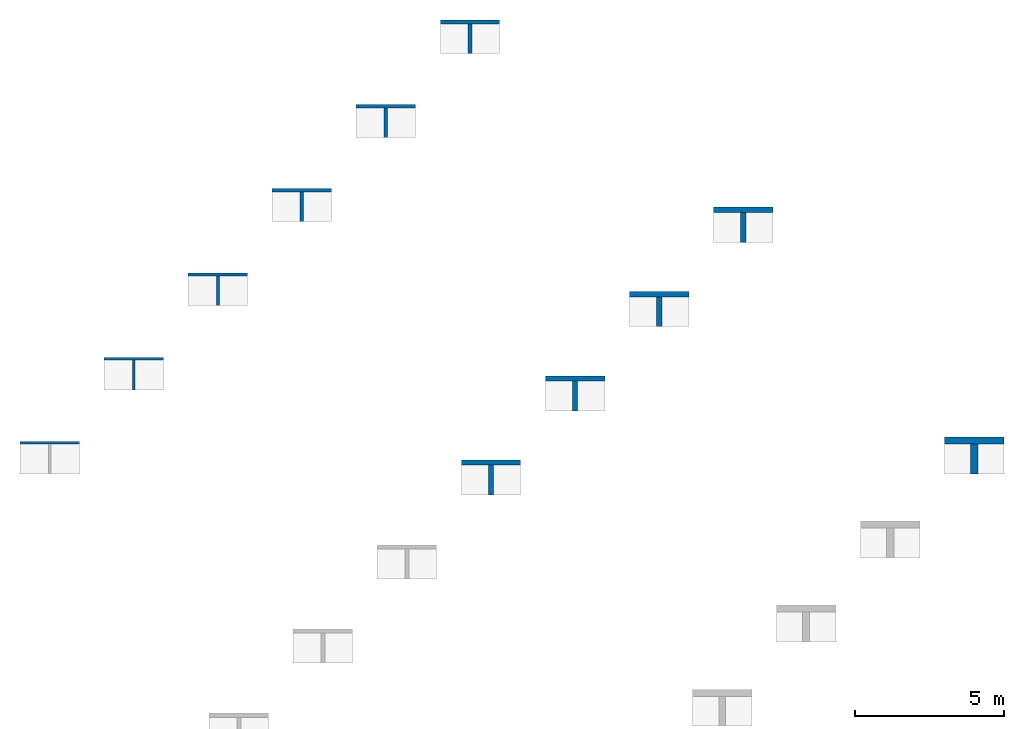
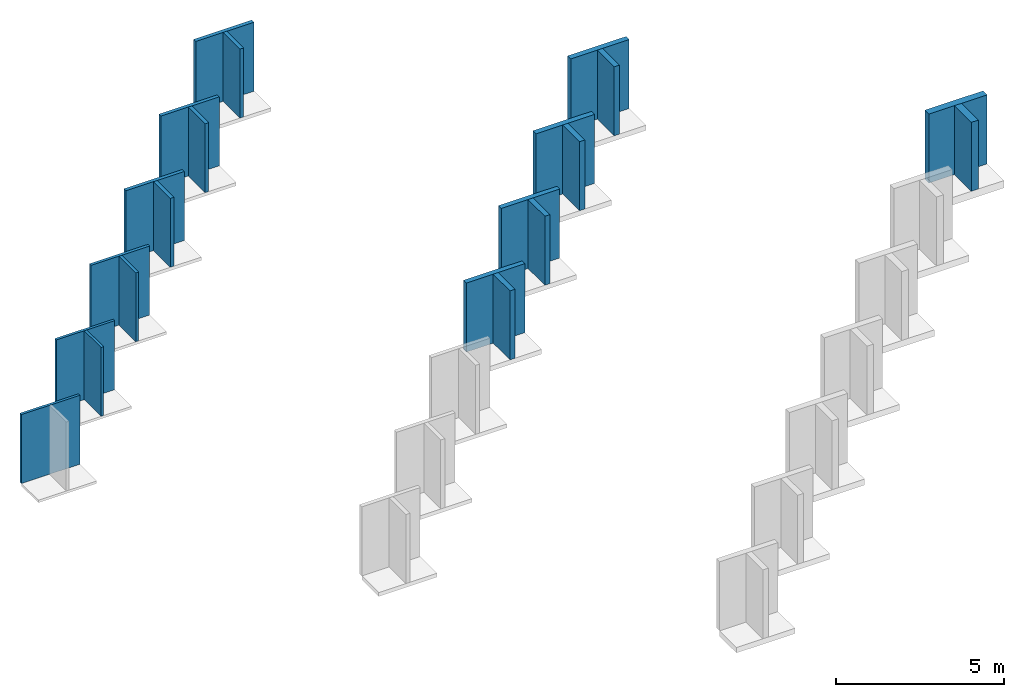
# One storey, part 2 of 2: 21 walls.
"""IFC2X3 building model written with IfcOpenShell, lengths in millimetres."""

from ifc_helpers import new_model, entity, si_unit, converted_unit, derived_unit, direction, frame, frame_2d, origin, place, context, subcontext, project, spatial, rectangle, extrude, material, layer, layer_set, layer_usage, type_object, element, save


model = new_model("IFC2X3")

# Units and contexts
model_context = context("Model", 3, precision=0.01, world=origin(), true_north=direction((6.12303176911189e-17, 1.0)))
context_of_model = context(None, 3, precision=0.01, world=origin(), true_north=direction((6.12303176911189e-17, 1.0)))
body_context = subcontext(model_context, "Body", "Model", "MODEL_VIEW")
ifc_project = project(units=[si_unit("LENGTHUNIT", "METRE", prefix="MILLI"), si_unit("AREAUNIT", "SQUARE_METRE"), si_unit("VOLUMEUNIT", "CUBIC_METRE"), converted_unit("PLANEANGLEUNIT", "DEGREE", entity("IfcRatioMeasure", 0.0174532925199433), si_unit("PLANEANGLEUNIT", "RADIAN"), dimensions=[0, 0, 0, 0, 0, 0, 0]), si_unit("MASSUNIT", "GRAM", prefix="KILO"), derived_unit("MASSDENSITYUNIT", [(si_unit("MASSUNIT", "GRAM", prefix="KILO"), 1), (si_unit("LENGTHUNIT", "METRE"), -3)]), si_unit("TIMEUNIT", "SECOND"), si_unit("FREQUENCYUNIT", "HERTZ"), si_unit("THERMODYNAMICTEMPERATUREUNIT", "DEGREE_CELSIUS"), derived_unit("THERMALTRANSMITTANCEUNIT", [(si_unit("MASSUNIT", "GRAM", prefix="KILO"), 1), (si_unit("THERMODYNAMICTEMPERATUREUNIT", "KELVIN"), -1), (si_unit("TIMEUNIT", "SECOND"), -3)]), derived_unit("VOLUMETRICFLOWRATEUNIT", [(si_unit("LENGTHUNIT", "METRE"), 3), (si_unit("TIMEUNIT", "SECOND"), -1)]), si_unit("ELECTRICCURRENTUNIT", "AMPERE"), si_unit("ELECTRICVOLTAGEUNIT", "VOLT"), si_unit("POWERUNIT", "WATT"), si_unit("FORCEUNIT", "NEWTON", prefix="KILO"), si_unit("ILLUMINANCEUNIT", "LUX"), si_unit("LUMINOUSFLUXUNIT", "LUMEN"), si_unit("LUMINOUSINTENSITYUNIT", "CANDELA"), derived_unit("USERDEFINED", [(si_unit("MASSUNIT", "GRAM", prefix="KILO"), -1), (si_unit("LENGTHUNIT", "METRE"), -2), (si_unit("TIMEUNIT", "SECOND"), 3), (si_unit("LUMINOUSFLUXUNIT", "LUMEN"), 1)]), derived_unit("LINEARVELOCITYUNIT", [(si_unit("LENGTHUNIT", "METRE"), 1), (si_unit("TIMEUNIT", "SECOND"), -1)]), si_unit("PRESSUREUNIT", "PASCAL"), derived_unit("USERDEFINED", [(si_unit("LENGTHUNIT", "METRE"), -2), (si_unit("MASSUNIT", "GRAM", prefix="KILO"), 1), (si_unit("TIMEUNIT", "SECOND"), -2)])], contexts=[model_context, context_of_model])

# Site, building, storey
site_placement = place(None, origin())
site = spatial("IfcSite", under=ifc_project, at=site_placement, Name="Default", CompositionType="ELEMENT")
building_placement = place(site_placement, origin())
building = spatial("IfcBuilding", under=site, at=building_placement, CompositionType="ELEMENT")
storey_placement = place(building_placement, origin())
storey = spatial("IfcBuildingStorey", under=building, at=storey_placement, Name="Begane grond", CompositionType="ELEMENT", Elevation=0.0)

# Walls
ifc_material = material(Name="Knauf Insulation_Ecose® glaswol_naturoll 035")
ifc_layer_1 = layer(ifc_material, 90.0)
ifc_layer_set_1 = layer_set([ifc_layer_1], Name="Basic Wall:NLRS_21_WA_Naturoll 035_90x380x7600mm")
ifc_layer_usage_1 = layer_usage(ifc_layer_set_1, "AXIS2", "NEGATIVE", 45.0)
wall_type_1 = type_object("IfcWallType", Name="Basic Wall:NLRS_21_WA_Naturoll 035_90x380x7600mm", PredefinedType="STANDARD", material=ifc_layer_set_1)
wall_1_placement = place(storey_placement, frame((-3133.09589603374, 5905.80776131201, 0.0)))
element("IfcWallStandardCase", 1, at=wall_1_placement, inside=storey, type_object=wall_type_1, material=ifc_layer_usage_1, Name="Basic Wall:NLRS_21_WA_Naturoll 035_90x380x7600mm", ObjectType="Basic Wall:NLRS_21_WA_Naturoll 035_90x380x7600mm", context=body_context, shape_type="SweptSolid", body=[
    extrude(rectangle(XDim=2000.0, YDim=89.999999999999, at=frame_2d((1000.0, 0.0), x_axis=(-1.0, 0.0))), origin(), (0.0, 0.0, 1.0), 2500.0),
])
ifc_layer_2 = layer(ifc_material, 90.0)
ifc_layer_set_2 = layer_set([ifc_layer_2], Name="Basic Wall:NLRS_21_WA_Naturoll 035_90x580x7600mm")
ifc_layer_usage_2 = layer_usage(ifc_layer_set_2, "AXIS2", "NEGATIVE", 45.0)
wall_type_2 = type_object("IfcWallType", Name="Basic Wall:NLRS_21_WA_Naturoll 035_90x580x7600mm", PredefinedType="STANDARD", material=ifc_layer_set_2)
wall_2_placement = place(storey_placement, frame((-304.668771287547, 8734.2348860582, 0.0)))
element("IfcWallStandardCase", 2, at=wall_2_placement, inside=storey, type_object=wall_type_2, material=ifc_layer_usage_2, Name="Basic Wall:NLRS_21_WA_Naturoll 035_90x580x7600mm", ObjectType="Basic Wall:NLRS_21_WA_Naturoll 035_90x580x7600mm", context=body_context, shape_type="SweptSolid", body=[
    extrude(rectangle(XDim=2000.0, YDim=89.999999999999, at=frame_2d((1000.0, 0.0), x_axis=(-1.0, 0.0))), origin(), (0.0, 0.0, 1.0), 2500.0),
])
ifc_layer_usage_3 = layer_usage(ifc_layer_set_2, "AXIS2", "NEGATIVE", 45.0)
wall_3_placement = place(storey_placement, frame((695.331228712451, 8689.23488605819, 0.0), z_axis=(0.0, 0.0, 1.0), x_axis=(0.0, -1.0, 0.0)))
element("IfcWallStandardCase", 3, at=wall_3_placement, inside=storey, type_object=wall_type_2, material=ifc_layer_usage_3, Name="Basic Wall:NLRS_21_WA_Naturoll 035_90x580x7600mm", ObjectType="Basic Wall:NLRS_21_WA_Naturoll 035_90x580x7600mm", context=body_context, shape_type="SweptSolid", body=[
    extrude(rectangle(XDim=1000.0, YDim=90.0000000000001, at=frame_2d((500.0, 0.0), x_axis=(-1.0, 0.0))), origin(), (0.0, 0.0, 1.0), 2500.0),
])
ifc_layer_3 = layer(ifc_material, 100.0)
ifc_layer_set_3 = layer_set([ifc_layer_3], Name="Basic Wall:NLRS_21_WA_Naturoll 035_100x580x7400mm")
ifc_layer_usage_4 = layer_usage(ifc_layer_set_3, "AXIS2", "NEGATIVE", 50.0)
wall_type_3 = type_object("IfcWallType", Name="Basic Wall:NLRS_21_WA_Naturoll 035_100x580x7400mm", PredefinedType="STANDARD", material=ifc_layer_set_3)
wall_4_placement = place(storey_placement, frame((2523.75835345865, 11567.6620108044, 0.0)))
element("IfcWallStandardCase", 4, at=wall_4_placement, inside=storey, type_object=wall_type_3, material=ifc_layer_usage_4, Name="Basic Wall:NLRS_21_WA_Naturoll 035_100x580x7400mm", ObjectType="Basic Wall:NLRS_21_WA_Naturoll 035_100x580x7400mm", context=body_context, shape_type="SweptSolid", body=[
    extrude(rectangle(XDim=2000.0, YDim=99.9999999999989, at=frame_2d((1000.0, 0.0), x_axis=(-1.0, 0.0))), origin(), (0.0, 0.0, 1.0), 2500.0),
])
ifc_layer_usage_5 = layer_usage(ifc_layer_set_3, "AXIS2", "NEGATIVE", 50.0)
wall_5_placement = place(storey_placement, frame((3523.75835345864, 11517.6620108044, 0.0), z_axis=(0.0, 0.0, 1.0), x_axis=(0.0, -1.0, 0.0)))
element("IfcWallStandardCase", 5, at=wall_5_placement, inside=storey, type_object=wall_type_3, material=ifc_layer_usage_5, Name="Basic Wall:NLRS_21_WA_Naturoll 035_100x580x7400mm", ObjectType="Basic Wall:NLRS_21_WA_Naturoll 035_100x580x7400mm", context=body_context, shape_type="SweptSolid", body=[
    extrude(rectangle(XDim=999.999999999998, YDim=100.0, at=frame_2d((499.999999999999, 0.0), x_axis=(-1.0, 0.0))), origin(), (0.0, 0.0, 1.0), 2500.0),
])
ifc_layer_4 = layer(ifc_material, 120.0)
ifc_layer_set_4 = layer_set([ifc_layer_4], Name="Basic Wall:NLRS_21_WA_Naturoll 035_120x380x6200mm")
ifc_layer_usage_6 = layer_usage(ifc_layer_set_4, "AXIS2", "NEGATIVE", 60.0)
wall_type_4 = type_object("IfcWallType", Name="Basic Wall:NLRS_21_WA_Naturoll 035_120x380x6200mm", PredefinedType="STANDARD", material=ifc_layer_set_4)
wall_6_placement = place(storey_placement, frame((5352.18547820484, 14406.0891355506, 0.0)))
element("IfcWallStandardCase", 6, at=wall_6_placement, inside=storey, type_object=wall_type_4, material=ifc_layer_usage_6, Name="Basic Wall:NLRS_21_WA_Naturoll 035_120x380x6200mm", ObjectType="Basic Wall:NLRS_21_WA_Naturoll 035_120x380x6200mm", context=body_context, shape_type="SweptSolid", body=[
    extrude(rectangle(XDim=2000.0, YDim=119.999999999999, at=frame_2d((1000.0, 0.0), x_axis=(-1.0, 0.0))), origin(), (0.0, 0.0, 1.0), 2500.0),
])
ifc_layer_usage_7 = layer_usage(ifc_layer_set_4, "AXIS2", "NEGATIVE", 60.0)
wall_7_placement = place(storey_placement, frame((6352.18547820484, 14346.0891355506, 0.0), z_axis=(0.0, 0.0, 1.0), x_axis=(0.0, -1.0, 0.0)))
element("IfcWallStandardCase", 7, at=wall_7_placement, inside=storey, type_object=wall_type_4, material=ifc_layer_usage_7, Name="Basic Wall:NLRS_21_WA_Naturoll 035_120x380x6200mm", ObjectType="Basic Wall:NLRS_21_WA_Naturoll 035_120x380x6200mm", context=body_context, shape_type="SweptSolid", body=[
    extrude(rectangle(XDim=1000.0, YDim=120.000000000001, at=frame_2d((500.000000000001, -2.73558953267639e-13), x_axis=(-1.0, 0.0))), origin(), (0.0, 0.0, 1.0), 2500.0),
])
ifc_layer_5 = layer(ifc_material, 120.0)
ifc_layer_set_5 = layer_set([ifc_layer_5], Name="Basic Wall:NLRS_21_WA_Naturoll 035_120x580x6200mm")
ifc_layer_usage_8 = layer_usage(ifc_layer_set_5, "AXIS2", "NEGATIVE", 60.0)
wall_type_5 = type_object("IfcWallType", Name="Basic Wall:NLRS_21_WA_Naturoll 035_120x580x6200mm", PredefinedType="STANDARD", material=ifc_layer_set_5)
wall_8_placement = place(storey_placement, frame((8180.61260295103, 17234.5162602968, 0.0)))
element("IfcWallStandardCase", 8, at=wall_8_placement, inside=storey, type_object=wall_type_5, material=ifc_layer_usage_8, Name="Basic Wall:NLRS_21_WA_Naturoll 035_120x580x6200mm", ObjectType="Basic Wall:NLRS_21_WA_Naturoll 035_120x580x6200mm", context=body_context, shape_type="SweptSolid", body=[
    extrude(rectangle(XDim=2000.0, YDim=119.999999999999, at=frame_2d((1000.0, 0.0), x_axis=(-1.0, 0.0))), origin(), (0.0, 0.0, 1.0), 2500.0),
])
ifc_layer_usage_9 = layer_usage(ifc_layer_set_5, "AXIS2", "NEGATIVE", 60.0)
wall_9_placement = place(storey_placement, frame((9180.61260295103, 17174.5162602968, 0.0), z_axis=(0.0, 0.0, 1.0), x_axis=(0.0, -1.0, 0.0)))
element("IfcWallStandardCase", 9, at=wall_9_placement, inside=storey, type_object=wall_type_5, material=ifc_layer_usage_9, Name="Basic Wall:NLRS_21_WA_Naturoll 035_120x580x6200mm", ObjectType="Basic Wall:NLRS_21_WA_Naturoll 035_120x580x6200mm", context=body_context, shape_type="SweptSolid", body=[
    extrude(rectangle(XDim=1000.0, YDim=120.000000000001, at=frame_2d((500.000000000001, -2.73558953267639e-13), x_axis=(-1.0, 0.0))), origin(), (0.0, 0.0, 1.0), 2500.0),
])
ifc_layer_6 = layer(ifc_material, 130.0)
ifc_layer_set_6 = layer_set([ifc_layer_6], Name="Basic Wall:NLRS_21_WA_Naturoll 035_130x590x5500mm")
ifc_layer_usage_10 = layer_usage(ifc_layer_set_6, "AXIS2", "NEGATIVE", 65.0)
wall_type_6 = type_object("IfcWallType", Name="Basic Wall:NLRS_21_WA_Naturoll 035_130x590x5500mm", PredefinedType="STANDARD", material=ifc_layer_set_6)
wall_10_placement = place(storey_placement, frame((11009.0397276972, 20067.9433850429, 0.0)))
element("IfcWallStandardCase", 10, at=wall_10_placement, inside=storey, type_object=wall_type_6, material=ifc_layer_usage_10, Name="Basic Wall:NLRS_21_WA_Naturoll 035_130x590x5500mm", ObjectType="Basic Wall:NLRS_21_WA_Naturoll 035_130x590x5500mm", context=body_context, shape_type="SweptSolid", body=[
    extrude(rectangle(XDim=2000.0, YDim=129.999999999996, at=frame_2d((1000.0, -1.08713038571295e-12), x_axis=(-1.0, 0.0))), origin(), (0.0, 0.0, 1.0), 2500.0),
])
ifc_layer_usage_11 = layer_usage(ifc_layer_set_6, "AXIS2", "NEGATIVE", 65.0)
wall_11_placement = place(storey_placement, frame((12009.0397276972, 20002.9433850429, 0.0), z_axis=(0.0, 0.0, 1.0), x_axis=(0.0, -1.0, 0.0)))
element("IfcWallStandardCase", 11, at=wall_11_placement, inside=storey, type_object=wall_type_6, material=ifc_layer_usage_11, Name="Basic Wall:NLRS_21_WA_Naturoll 035_130x590x5500mm", ObjectType="Basic Wall:NLRS_21_WA_Naturoll 035_130x590x5500mm", context=body_context, shape_type="SweptSolid", body=[
    extrude(rectangle(XDim=999.999999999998, YDim=130.000000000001, at=frame_2d((499.999999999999, -2.70006239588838e-13), x_axis=(-1.0, 0.0))), origin(), (0.0, 0.0, 1.0), 2500.0),
])
ifc_layer_7 = layer(ifc_material, 170.0)
ifc_layer_set_7 = layer_set([ifc_layer_7], Name="Basic Wall:NLRS_21_WA_Naturoll 035_170x380x4350mm")
ifc_layer_usage_12 = layer_usage(ifc_layer_set_7, "AXIS2", "NEGATIVE", 85.0)
wall_type_7 = type_object("IfcWallType", Name="Basic Wall:NLRS_21_WA_Naturoll 035_170x380x4350mm", PredefinedType="STANDARD", material=ifc_layer_set_7)
wall_12_placement = place(storey_placement, frame((11716.1465088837, 5238.70098012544, 0.0)))
element("IfcWallStandardCase", 12, at=wall_12_placement, inside=storey, type_object=wall_type_7, material=ifc_layer_usage_12, Name="Basic Wall:NLRS_21_WA_Naturoll 035_170x380x4350mm", ObjectType="Basic Wall:NLRS_21_WA_Naturoll 035_170x380x4350mm", context=body_context, shape_type="SweptSolid", body=[
    extrude(rectangle(XDim=2000.0, YDim=170.0, at=frame_2d((1000.0, 0.0), x_axis=(-1.0, 0.0))), origin(), (0.0, 0.0, 1.0), 2500.0),
])
ifc_layer_usage_13 = layer_usage(ifc_layer_set_7, "AXIS2", "NEGATIVE", 85.0)
wall_13_placement = place(storey_placement, frame((12716.1465088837, 5153.70098012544, 0.0), z_axis=(0.0, 0.0, 1.0), x_axis=(0.0, -1.0, 0.0)))
element("IfcWallStandardCase", 13, at=wall_13_placement, inside=storey, type_object=wall_type_7, material=ifc_layer_usage_13, Name="Basic Wall:NLRS_21_WA_Naturoll 035_170x380x4350mm", ObjectType="Basic Wall:NLRS_21_WA_Naturoll 035_170x380x4350mm", context=body_context, shape_type="SweptSolid", body=[
    extrude(rectangle(XDim=1000.0, YDim=170.0, at=frame_2d((500.0, -2.70006239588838e-13), x_axis=(-1.0, 0.0))), origin(), (0.0, 0.0, 1.0), 2500.0),
])
ifc_layer_8 = layer(ifc_material, 170.0)
ifc_layer_set_8 = layer_set([ifc_layer_8], Name="Basic Wall:NLRS_21_WA_Naturoll 035_170x580x4350mm")
ifc_layer_usage_14 = layer_usage(ifc_layer_set_8, "AXIS2", "NEGATIVE", 85.0)
wall_type_8 = type_object("IfcWallType", Name="Basic Wall:NLRS_21_WA_Naturoll 035_170x580x4350mm", PredefinedType="STANDARD", material=ifc_layer_set_8)
wall_14_placement = place(storey_placement, frame((14544.5736336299, 8067.12810487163, 0.0)))
element("IfcWallStandardCase", 14, at=wall_14_placement, inside=storey, type_object=wall_type_8, material=ifc_layer_usage_14, Name="Basic Wall:NLRS_21_WA_Naturoll 035_170x580x4350mm", ObjectType="Basic Wall:NLRS_21_WA_Naturoll 035_170x580x4350mm", context=body_context, shape_type="SweptSolid", body=[
    extrude(rectangle(XDim=2000.0, YDim=170.0, at=frame_2d((1000.0, 0.0), x_axis=(-1.0, 0.0))), origin(), (0.0, 0.0, 1.0), 2500.0),
])
ifc_layer_usage_15 = layer_usage(ifc_layer_set_8, "AXIS2", "NEGATIVE", 85.0)
wall_15_placement = place(storey_placement, frame((15544.5736336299, 7982.12810487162, 0.0), z_axis=(0.0, 0.0, 1.0), x_axis=(0.0, -1.0, 0.0)))
element("IfcWallStandardCase", 15, at=wall_15_placement, inside=storey, type_object=wall_type_8, material=ifc_layer_usage_15, Name="Basic Wall:NLRS_21_WA_Naturoll 035_170x580x4350mm", ObjectType="Basic Wall:NLRS_21_WA_Naturoll 035_170x580x4350mm", context=body_context, shape_type="SweptSolid", body=[
    extrude(rectangle(XDim=1000.0, YDim=170.0, at=frame_2d((500.0, -2.70006239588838e-13), x_axis=(-1.0, 0.0))), origin(), (0.0, 0.0, 1.0), 2500.0),
])
ifc_layer_9 = layer(ifc_material, 185.0)
ifc_layer_set_9 = layer_set([ifc_layer_9], Name="Basic Wall:NLRS_21_WA_Naturoll 035_185x380x4000mm")
ifc_layer_usage_16 = layer_usage(ifc_layer_set_9, "AXIS2", "NEGATIVE", 92.5)
wall_type_9 = type_object("IfcWallType", Name="Basic Wall:NLRS_21_WA_Naturoll 035_185x380x4000mm", PredefinedType="STANDARD", material=ifc_layer_set_9)
wall_16_placement = place(storey_placement, frame((17373.0007583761, 10903.0552296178, 0.0)))
element("IfcWallStandardCase", 16, at=wall_16_placement, inside=storey, type_object=wall_type_9, material=ifc_layer_usage_16, Name="Basic Wall:NLRS_21_WA_Naturoll 035_185x380x4000mm", ObjectType="Basic Wall:NLRS_21_WA_Naturoll 035_185x380x4000mm", context=body_context, shape_type="SweptSolid", body=[
    extrude(rectangle(XDim=2000.0, YDim=185.000000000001, at=frame_2d((1000.0, 0.0), x_axis=(-1.0, 0.0))), origin(), (0.0, 0.0, 1.0), 2500.0),
])
ifc_layer_usage_17 = layer_usage(ifc_layer_set_9, "AXIS2", "NEGATIVE", 92.5)
wall_17_placement = place(storey_placement, frame((18373.0007583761, 10810.5552296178, 0.0), z_axis=(0.0, 0.0, 1.0), x_axis=(0.0, -1.0, 0.0)))
element("IfcWallStandardCase", 17, at=wall_17_placement, inside=storey, type_object=wall_type_9, material=ifc_layer_usage_17, Name="Basic Wall:NLRS_21_WA_Naturoll 035_185x380x4000mm", ObjectType="Basic Wall:NLRS_21_WA_Naturoll 035_185x380x4000mm", context=body_context, shape_type="SweptSolid", body=[
    extrude(rectangle(XDim=999.999999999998, YDim=185.000000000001, at=frame_2d((499.999999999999, -2.70006239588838e-13), x_axis=(-1.0, 0.0))), origin(), (0.0, 0.0, 1.0), 2500.0),
])
ifc_layer_10 = layer(ifc_material, 240.0)
ifc_layer_set_10 = layer_set([ifc_layer_10], Name="Basic Wall:NLRS_21_WA_Naturoll 035_270x590x2600mm")
ifc_layer_usage_18 = layer_usage(ifc_layer_set_10, "AXIS2", "NEGATIVE", 120.0)
wall_type_10 = type_object("IfcWallType", Name="Basic Wall:NLRS_21_WA_Naturoll 035_270x590x2600mm", PredefinedType="STANDARD", material=ifc_layer_set_10)
wall_18_placement = place(storey_placement, frame((27979.6024761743, 5980.80776131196, 0.0)))
element("IfcWallStandardCase", 18, at=wall_18_placement, inside=storey, type_object=wall_type_10, material=ifc_layer_usage_18, Name="Basic Wall:NLRS_21_WA_Naturoll 035_270x590x2600mm", ObjectType="Basic Wall:NLRS_21_WA_Naturoll 035_270x590x2600mm", context=body_context, shape_type="SweptSolid", body=[
    extrude(rectangle(XDim=2000.0, YDim=240.0, at=frame_2d((1000.0, 0.0), x_axis=(-1.0, 0.0))), origin(), (0.0, 0.0, 1.0), 2500.0),
])
ifc_layer_usage_19 = layer_usage(ifc_layer_set_10, "AXIS2", "NEGATIVE", 120.0)
wall_19_placement = place(storey_placement, frame((28979.6024761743, 5860.80776131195, 0.0), z_axis=(0.0, 0.0, 1.0), x_axis=(0.0, -1.0, 0.0)))
element("IfcWallStandardCase", 19, at=wall_19_placement, inside=storey, type_object=wall_type_10, material=ifc_layer_usage_19, Name="Basic Wall:NLRS_21_WA_Naturoll 035_270x590x2600mm", ObjectType="Basic Wall:NLRS_21_WA_Naturoll 035_270x590x2600mm", context=body_context, shape_type="SweptSolid", body=[
    extrude(rectangle(XDim=1000.0, YDim=239.999999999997, at=frame_2d((500.0, 8.10018718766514e-13), x_axis=(-1.0, 0.0))), origin(), (0.0, 0.0, 1.0), 2500.0),
])
ifc_layer_11 = layer(ifc_material, 185.0)
ifc_layer_set_11 = layer_set([ifc_layer_11], Name="Basic Wall:NLRS_21_WA_Naturoll 035_185x580x4000mm")
ifc_layer_usage_20 = layer_usage(ifc_layer_set_11, "AXIS2", "NEGATIVE", 92.5)
wall_type_11 = type_object("IfcWallType", Name="Basic Wall:NLRS_21_WA_Naturoll 035_185x580x4000mm", PredefinedType="STANDARD", material=ifc_layer_set_11)
wall_20_placement = place(storey_placement, frame((20201.4278831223, 13746.482354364, 0.0)))
element("IfcWallStandardCase", 20, at=wall_20_placement, inside=storey, type_object=wall_type_11, material=ifc_layer_usage_20, Name="Basic Wall:NLRS_21_WA_Naturoll 035_185x580x4000mm", ObjectType="Basic Wall:NLRS_21_WA_Naturoll 035_185x580x4000mm", context=body_context, shape_type="SweptSolid", body=[
    extrude(rectangle(XDim=2000.0, YDim=185.000000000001, at=frame_2d((1000.0, 0.0), x_axis=(-1.0, 0.0))), origin(), (0.0, 0.0, 1.0), 2500.0),
])
ifc_layer_usage_21 = layer_usage(ifc_layer_set_11, "AXIS2", "NEGATIVE", 92.5)
wall_21_placement = place(storey_placement, frame((21201.4278831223, 13653.982354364, 0.0), z_axis=(0.0, 0.0, 1.0), x_axis=(0.0, -1.0, 0.0)))
element("IfcWallStandardCase", 21, at=wall_21_placement, inside=storey, type_object=wall_type_11, material=ifc_layer_usage_21, Name="Basic Wall:NLRS_21_WA_Naturoll 035_185x580x4000mm", ObjectType="Basic Wall:NLRS_21_WA_Naturoll 035_185x580x4000mm", context=body_context, shape_type="SweptSolid", body=[
    extrude(rectangle(XDim=999.999999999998, YDim=185.000000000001, at=frame_2d((499.999999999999, 8.17124146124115e-13), x_axis=(-1.0, 0.0))), origin(), (0.0, 0.0, 1.0), 2500.0),
])

save(model, "model.ifc")
